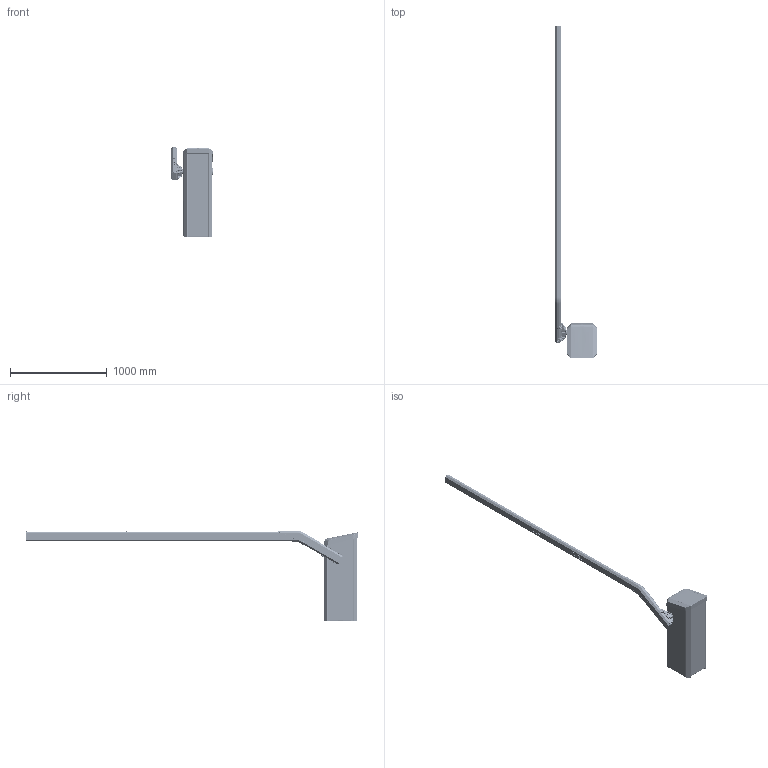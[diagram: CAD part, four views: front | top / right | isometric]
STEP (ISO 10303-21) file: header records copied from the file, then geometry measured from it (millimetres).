
FILE_DESCRIPTION(/* description */ ('Unknown'),/* implementation_level */ '2;1');
FILE_NAME(/* name */ '55860001',/* time_stamp */ '2019-09-18T08:27:41+02:00',/* author */ ('Unknown'),/* organization */ ('Unknown'),/* preprocessor_version */ 'ST-DEVELOPER v16.7',/* originating_system */ 'DEX',/* authorisation */ $);
FILE_SCHEMA (('AUTOMOTIVE_DESIGN {1 0 10303 214 3 1 1}'));
Products named in the file (72): 55860001; 35765037; ACCESS-R-HUELLE; 10435375; 20435695; 34685017; 34685017a; 34685017c; 34685017b; 34685017d; 20585064; 20195087; 20435694; 20775048; 10335028; 20695070; 20375010; 20165183; 10085135; 20695057; 34745013; 20345347; 20345348; 10085135-Dichtung; 20415077; 20415077a; 20415077b; 20695069; 30545011; 21085010; 21085009; 20775049; 20035145; 20186029; 10405014; 20405757; 31475004_10405014; 31475004_10405014c; 31475004_10405014b; 10315811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
Assembly tree (143 placements, depth 5):
  55860001
    35765037
    ACCESS-R-HUELLE
      10435375
        20435695
        34685017
          34685017a
          34685017c
          34685017b
          34685017d
        20585064
      20195087  x2
      20435694
      20775048  x2
      10335028  x2
        20695070
        20375010
      20165183
      10085135
        20695057
        34745013  x5
        20345347
        20345348
        10085135-Dichtung
      20415077
        20415077a
        20415077b
      20695069  x4
      30545011
      21085010
      21085009
      20775049  x2
      20035145
      20186029
      10405014
        20405757
        31475004_10405014  x2
        31475004_10405014c
        31475004_10405014b
    10315811
      20045100
      20045101
      34845067  x4
      20075012  x2
      34775000  x4
    10525083_oa_0
      20635347
      20115042
      20345374
      34915000  x2
      34635015  x10
      20115041
      20115041-oa17
      34775002  x8
    55860001_Baum_3075
      55155391_3075
      20115008
      34915000  x2
      20185227  x6
      20185229  x6
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Bounding box: 441.75 x 3434.21 x 931.91 mm (x, y, z)
Volume: 11321731.4 mm3; surface area: 9209767.5 mm2
Topology: 130 solids, 130 shells, 12890 faces, 32108 edges, 19588 vertices
Faces by surface type: plane 5010, cylinder 3923, bspline 2628, torus 637, cone 567, sphere 125
Full cylindrical faces by diameter (mm): 0.5 x1, 1.5 x3, 1.8 x2, 3 x10, 3.2 x1, 3.5 x14, 3.6 x8, 3.65 x4, 3.9 x6, 4 x1, 4.134 x2, 4.773 x5, 4.9 x3, 4.917 x14, 5.5 x2, 6 x28, 6.4 x18, 6.5 x9, 6.647 x4, 7 x8, 7.1 x2, 8 x4, 9 x12, 9.853 x4, 10 x16, 10.1 x4, 10.2 x1, 10.4 x1, 10.5 x12, 11 x2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
Entity records: 303242 total; most frequent: CARTESIAN_POINT 137164, ORIENTED_EDGE 34398, DIRECTION 31265, EDGE_CURVE 17199, AXIS2_PLACEMENT_3D 11387, VERTEX_POINT 10772, LINE 8491, VECTOR 8491
